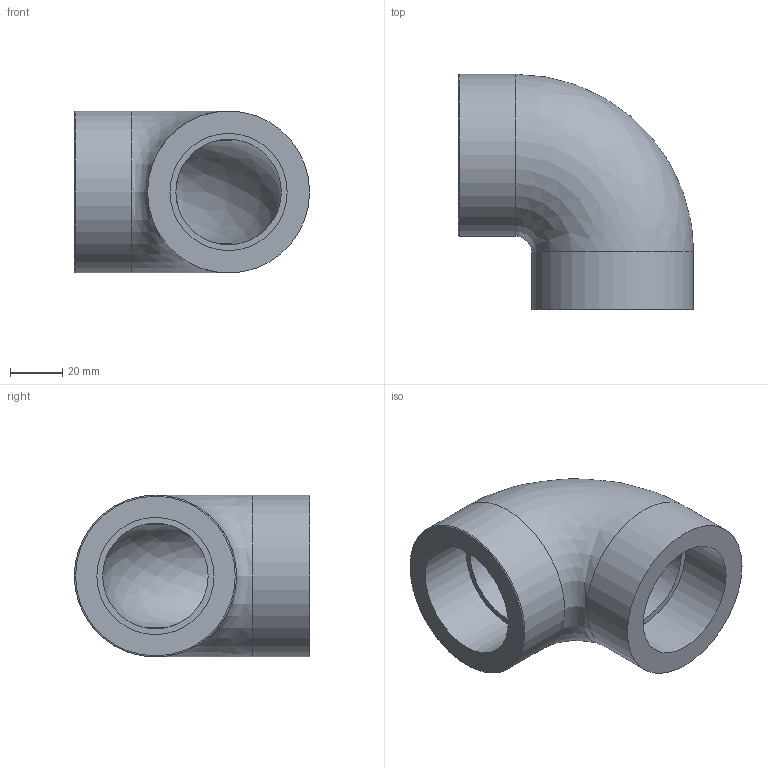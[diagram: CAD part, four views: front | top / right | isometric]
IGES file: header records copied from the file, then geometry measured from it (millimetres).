
Global section: file name: 050501015.ipt; native system: Autodesk Inventor 2015; preprocessor: unknown; author: KIM; date: 20171207.164639; units: millimetre
Bounding box: 90 x 90 x 62 mm (x, y, z)
Volume: 164442.3 mm3; surface area: 36900.7 mm2
Topology: 1 solids, 1 shells, 11 faces, 25 edges, 18 vertices
Faces by surface type: revolution 5, plane 4, cylinder 2
Full cylindrical faces by diameter (mm): 62 x2
